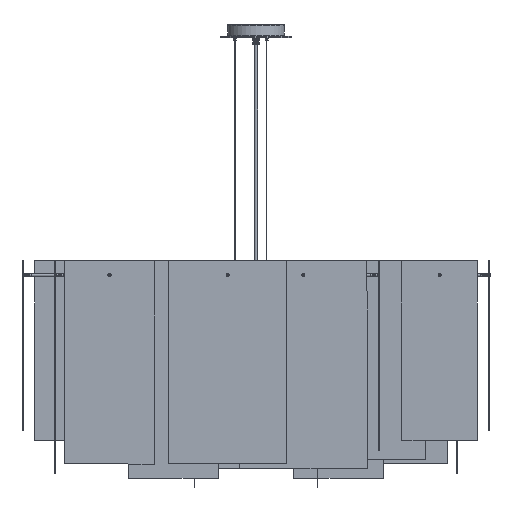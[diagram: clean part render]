
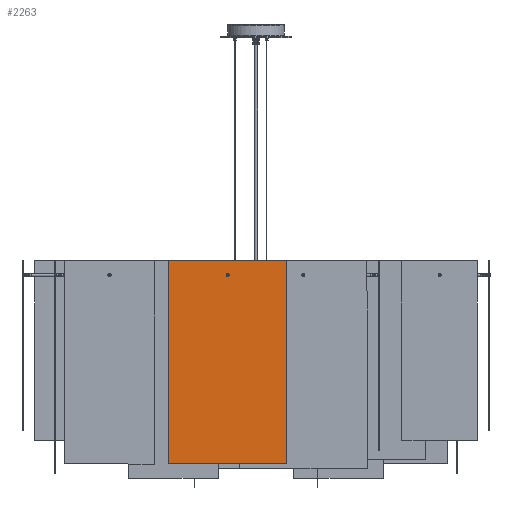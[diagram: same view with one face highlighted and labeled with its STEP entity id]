
A CAD part, left-side view. The second image highlights one B-rep face of the part: STEP entity #2263.
In plain terms, the highlighted planar face has unit normal (-1, 0, 0) as drawn and (0, 0, 1) by its records, which use the part's own axes.
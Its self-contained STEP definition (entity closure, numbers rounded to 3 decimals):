
#2087=CARTESIAN_POINT('',(2.5,400.0,1.0));
#2088=VERTEX_POINT('',#2087);
#2089=CARTESIAN_POINT('',(0.,400.0,1.0));
#2090=DIRECTION('',(0.0,0.0,-1.0));
#2091=DIRECTION('',(-1.0,0.0,0.0));
#2092=AXIS2_PLACEMENT_3D('',#2089,#2090,#2091);
#2093=CIRCLE('',#2092,2.5);
#2094=EDGE_CURVE('',#2088,#2088,#2093,.T.);
#2115=CARTESIAN_POINT('',(-125.0,0.0,1.0));
#2116=VERTEX_POINT('',#2115);
#2117=CARTESIAN_POINT('',(-125.,430.0,1.0));
#2118=VERTEX_POINT('',#2117);
#2119=CARTESIAN_POINT('',(-125.0,0.0,1.0));
#2120=DIRECTION('',(0.0,1.0,0.0));
#2121=VECTOR('',#2120,430.0);
#2122=LINE('',#2119,#2121);
#2123=EDGE_CURVE('',#2116,#2118,#2122,.T.);
#2155=CARTESIAN_POINT('',(125.,430.,1.0));
#2156=VERTEX_POINT('',#2155);
#2157=CARTESIAN_POINT('',(-125.,430.0,1.0));
#2158=DIRECTION('',(1.0,0.0,0.0));
#2159=VECTOR('',#2158,250.);
#2160=LINE('',#2157,#2159);
#2161=EDGE_CURVE('',#2118,#2156,#2160,.T.);
#2186=CARTESIAN_POINT('',(125.0,0.,1.0));
#2187=VERTEX_POINT('',#2186);
#2188=CARTESIAN_POINT('',(125.,430.,1.0));
#2189=DIRECTION('',(0.0,-1.0,0.0));
#2190=VECTOR('',#2189,430.0);
#2191=LINE('',#2188,#2190);
#2192=EDGE_CURVE('',#2156,#2187,#2191,.T.);
#2217=CARTESIAN_POINT('',(125.0,0.,1.0));
#2218=DIRECTION('',(-1.0,0.0,0.0));
#2219=VECTOR('',#2218,250.0);
#2220=LINE('',#2217,#2219);
#2221=EDGE_CURVE('',#2187,#2116,#2220,.T.);
#2249=CARTESIAN_POINT('',(0.,215.0,1.0));
#2250=DIRECTION('',(0.0,0.0,1.0));
#2251=DIRECTION('',(1.0,0.0,0.0));
#2252=AXIS2_PLACEMENT_3D('',#2249,#2250,#2251);
#2253=PLANE('',#2252);
#2254=ORIENTED_EDGE('',*,*,#2123,.F.);
#2255=ORIENTED_EDGE('',*,*,#2221,.F.);
#2256=ORIENTED_EDGE('',*,*,#2192,.F.);
#2257=ORIENTED_EDGE('',*,*,#2161,.F.);
#2258=EDGE_LOOP('',(#2254,#2255,#2256,#2257));
#2259=FACE_OUTER_BOUND('',#2258,.T.);
#2260=ORIENTED_EDGE('',*,*,#2094,.T.);
#2261=EDGE_LOOP('',(#2260));
#2262=FACE_BOUND('',#2261,.T.);
#2263=ADVANCED_FACE('',(#2259,#2262),#2253,.T.);
